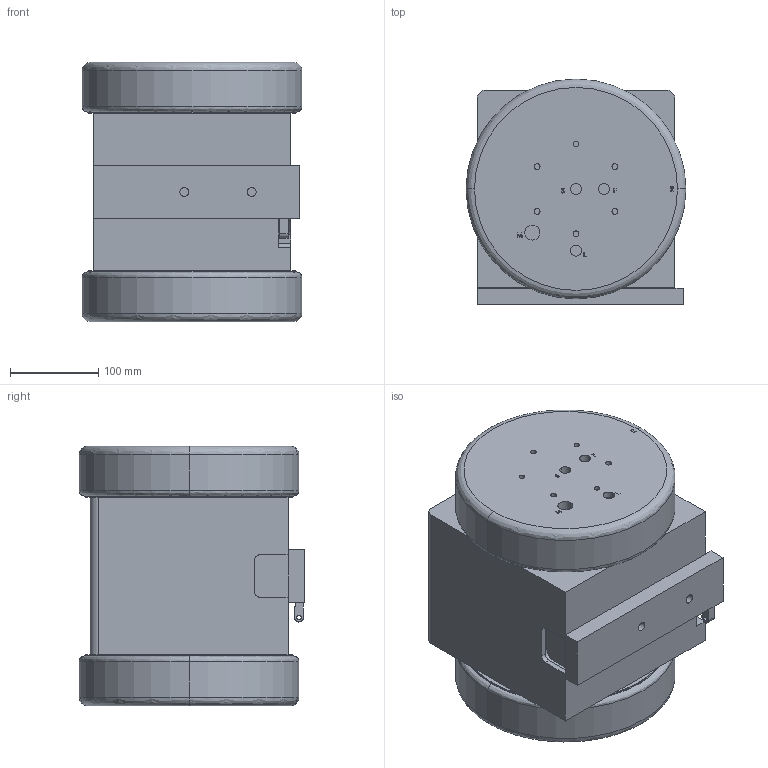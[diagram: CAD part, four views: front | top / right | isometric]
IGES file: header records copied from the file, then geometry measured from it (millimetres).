
Start section: SolidWorks IGES file using analytic representation for surfaces
Global section: file name: \\server\Users\Karen.Bodily\My Documents\PSU Defeatured\PSU140_without shuttle.IGS; native system: SolidWorks 2012; preprocessor: SolidWorks 2012; author: karen.bodily; date: 130725.132112; units: inch
Bounding box: 248.92 x 255.52 x 293.88 mm (x, y, z)
Volume: 14592680.7 mm3; surface area: 403736.6 mm2
Topology: 1 solids, 1 shells, 990 faces, 2603 edges, 1725 vertices
Faces by surface type: plane 726, bspline 147, revolution 117
